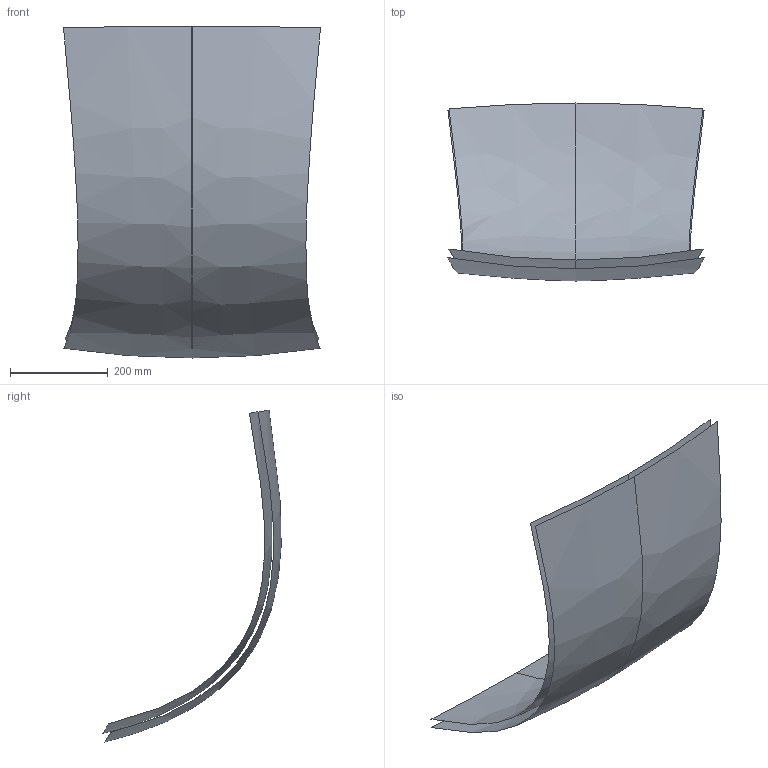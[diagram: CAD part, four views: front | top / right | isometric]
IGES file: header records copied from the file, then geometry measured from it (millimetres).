
Start section: SolidWorks IGES file using analytic representation for surfaces
Global section: file name: \\SRVADICO\Documentação Geral\GABINETE TÉCNICO\2D e 3D\LOUNGE\C111\3D\C111_3D.IGS; native system: SolidWorks 2019; preprocessor: SolidWorks 2019; author: emilia; date: 201006.180828; units: millimetre
Bounding box: 525.44 x 364.52 x 678.58 mm (x, y, z)
Surface area: 822308.7 mm2 (no closed solid volume)
Topology: 0 solids, 0 shells, 4 faces, 508 edges, 522 vertices
Faces by surface type: bspline 4
